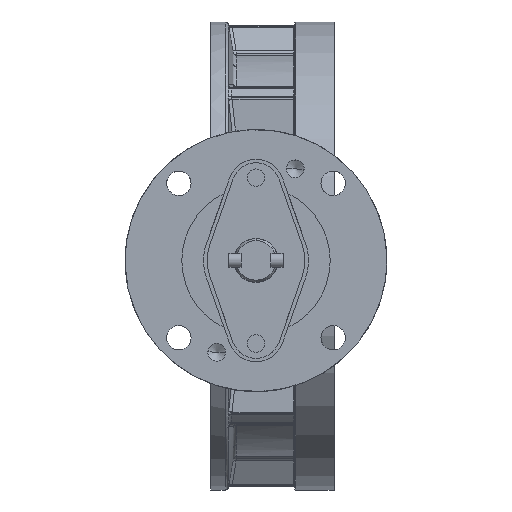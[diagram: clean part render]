
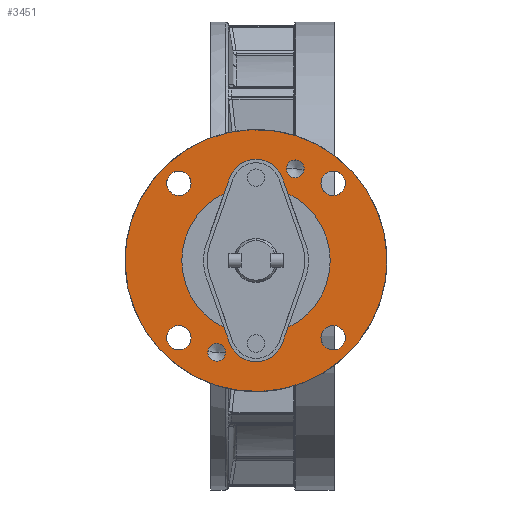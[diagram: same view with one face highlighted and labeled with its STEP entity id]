
A CAD part, top view. The second image highlights one B-rep face of the part: STEP entity #3451.
In plain terms, the highlighted planar face has unit normal (0, 0, 1).
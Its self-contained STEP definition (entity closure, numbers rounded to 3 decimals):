
#1519=EDGE_CURVE('',#4447,#4448,#4449,.T.);
#1631=EDGE_CURVE('',#4640,#4641,#4642,.T.);
#1861=EDGE_CURVE('',#5021,#5022,#5023,.T.);
#1889=EDGE_CURVE('',#5022,#5021,#5069,.T.);
#2215=EDGE_CURVE('',#4448,#5584,#5585,.T.);
#2237=EDGE_CURVE('',#5618,#5619,#5620,.T.);
#2373=EDGE_CURVE('',#5619,#5618,#5828,.T.);
#2433=EDGE_CURVE('',#5922,#5923,#5924,.T.);
#2509=EDGE_CURVE('',#6039,#6040,#6041,.T.);
#2751=EDGE_CURVE('',#5584,#6407,#6408,.T.);
#3239=EDGE_CURVE('',#7116,#7117,#7118,.T.);
#3333=EDGE_CURVE('',#5923,#5922,#7249,.T.);
#3451=ADVANCED_FACE('',(#7412,#7413,#7414,#7415,#7416,#7417,#7418,#7419),#7420,.F.);
#3615=EDGE_CURVE('',#7641,#7642,#7643,.T.);
#3641=EDGE_CURVE('',#7678,#7679,#7680,.T.);
#3783=EDGE_CURVE('',#7117,#4640,#7881,.T.);
#3931=EDGE_CURVE('',#7642,#7641,#8093,.T.);
#3967=EDGE_CURVE('',#7679,#7678,#8141,.T.);
#3997=EDGE_CURVE('',#6040,#6039,#8180,.T.);
#4447=VERTEX_POINT('',#9124);
#4448=VERTEX_POINT('',#9125);
#4449=LINE('',#9126,#9127);
#4640=VERTEX_POINT('',#9835);
#4641=VERTEX_POINT('',#9836);
#4642=LINE('',#9837,#9838);
#5021=VERTEX_POINT('',#11521);
#5022=VERTEX_POINT('',#11522);
#5023=CIRCLE('',#11523,5.1);
#5069=CIRCLE('',#11576,5.1);
#5584=VERTEX_POINT('',#13738);
#5585=CIRCLE('',#13739,16.0);
#5618=VERTEX_POINT('',#13894);
#5619=VERTEX_POINT('',#13895);
#5620=CIRCLE('',#13896,7.0);
#5828=CIRCLE('',#15365,7.0);
#5922=VERTEX_POINT('',#15916);
#5923=VERTEX_POINT('',#15917);
#5924=CIRCLE('',#15918,7.0);
#6039=VERTEX_POINT('',#16183);
#6040=VERTEX_POINT('',#16184);
#6041=CIRCLE('',#16185,7.);
#6407=VERTEX_POINT('',#17559);
#6408=LINE('',#17560,#17561);
#7116=VERTEX_POINT('',#21124);
#7117=VERTEX_POINT('',#21125);
#7118=LINE('',#21126,#21127);
#7249=CIRCLE('',#21618,7.0);
#7412=FACE_BOUND('',#22954,.T.);
#7413=FACE_BOUND('',#22955,.T.);
#7414=FACE_OUTER_BOUND('',#22956,.T.);
#7415=FACE_BOUND('',#22957,.T.);
#7416=FACE_BOUND('',#22958,.T.);
#7417=FACE_BOUND('',#22959,.T.);
#7418=FACE_BOUND('',#22960,.T.);
#7419=FACE_BOUND('',#22961,.T.);
#7420=PLANE('',#22962);
#7641=VERTEX_POINT('',#24459);
#7642=VERTEX_POINT('',#24460);
#7643=CIRCLE('',#24461,5.1);
#7678=VERTEX_POINT('',#24656);
#7679=VERTEX_POINT('',#24657);
#7680=CIRCLE('',#24658,7.);
#7881=CIRCLE('',#26039,16.0);
#8093=CIRCLE('',#26673,5.1);
#8141=CIRCLE('',#27054,7.);
#8180=CIRCLE('',#27105,7.);
#9124=CARTESIAN_POINT('',(18.25,-41.382,224.0));
#9125=CARTESIAN_POINT('',(15.085,-50.333,224.0));
#9126=CARTESIAN_POINT('',(21.582,-31.958,224.0));
#9127=VECTOR('',#29786,1.0);
#9835=CARTESIAN_POINT('',(15.085,44.333,224.0));
#9836=CARTESIAN_POINT('',(18.25,35.382,224.0));
#9837=CARTESIAN_POINT('',(21.582,25.958,224.0));
#9838=VECTOR('',#30066,1.0);
#11521=CARTESIAN_POINT('',(-17.407,-55.767,224.));
#11522=CARTESIAN_POINT('',(-27.593,-55.233,224.0));
#11523=AXIS2_PLACEMENT_3D('',#30731,#30732,#30733);
#11576=AXIS2_PLACEMENT_3D('',#30833,#30834,#30835);
#13738=CARTESIAN_POINT('',(-15.085,-50.333,224.0));
#13739=AXIS2_PLACEMENT_3D('',#31843,#31844,#31845);
#13894=CARTESIAN_POINT('',(39.807,-52.649,224.0));
#13895=CARTESIAN_POINT('',(48.581,-41.739,224.0));
#13896=AXIS2_PLACEMENT_3D('',#31914,#31915,#31916);
#15365=AXIS2_PLACEMENT_3D('',#32308,#32309,#32310);
#15916=CARTESIAN_POINT('',(-39.807,-52.649,224.0));
#15917=CARTESIAN_POINT('',(-48.581,-41.739,224.0));
#15918=AXIS2_PLACEMENT_3D('',#32470,#32471,#32472);
#16183=CARTESIAN_POINT('',(39.807,46.649,224.0));
#16184=CARTESIAN_POINT('',(48.581,35.739,224.0));
#16185=AXIS2_PLACEMENT_3D('',#32695,#32696,#32697);
#17559=CARTESIAN_POINT('',(-18.25,-41.382,224.0));
#17560=CARTESIAN_POINT('',(-28.387,-12.709,224.0));
#17561=VECTOR('',#33461,1.0);
#21124=CARTESIAN_POINT('',(-18.25,35.382,224.0));
#21125=CARTESIAN_POINT('',(-15.085,44.333,224.0));
#21126=CARTESIAN_POINT('',(-28.387,6.709,224.0));
#21127=VECTOR('',#34824,1.0);
#21618=AXIS2_PLACEMENT_3D('',#35076,#35077,#35078);
#22954=EDGE_LOOP('',(#35386,#35387));
#22955=EDGE_LOOP('',(#35388,#35389));
#22956=EDGE_LOOP('',(#35390,#35391));
#22957=EDGE_LOOP('',(#35392,#35393,#35394,#35395,#35396,#35397,#35398,#35399,#35400,#35401));
#22958=EDGE_LOOP('',(#35402,#35403));
#22959=EDGE_LOOP('',(#35404,#35405));
#22960=EDGE_LOOP('',(#35406,#35407));
#22961=EDGE_LOOP('',(#35408,#35409));
#22962=AXIS2_PLACEMENT_3D('',#35410,#35411,#35412);
#24459=CARTESIAN_POINT('',(17.407,49.767,224.0));
#24460=CARTESIAN_POINT('',(27.593,49.233,224.0));
#24461=AXIS2_PLACEMENT_3D('',#35856,#35857,#35858);
#24656=CARTESIAN_POINT('',(-48.581,35.739,224.0));
#24657=CARTESIAN_POINT('',(-39.807,46.649,224.0));
#24658=AXIS2_PLACEMENT_3D('',#35924,#35925,#35926);
#26039=AXIS2_PLACEMENT_3D('',#36360,#36361,#36362);
#26673=AXIS2_PLACEMENT_3D('',#36847,#36848,#36849);
#27054=AXIS2_PLACEMENT_3D('',#36938,#36939,#36940);
#27105=AXIS2_PLACEMENT_3D('',#37015,#37016,#37017);
#29786=DIRECTION('',(-0.333,-0.943,0.0));
#30066=DIRECTION('',(0.333,-0.943,-0.0));
#30731=CARTESIAN_POINT('',(-22.5,-55.5,224.0));
#30732=DIRECTION('',(0.0,-0.0,-1.0));
#30733=DIRECTION('',(0.999,-0.052,0.0));
#30833=CARTESIAN_POINT('',(-22.5,-55.5,224.0));
#30834=DIRECTION('',(0.0,-0.0,-1.0));
#30835=DIRECTION('',(0.999,-0.052,0.0));
#31843=CARTESIAN_POINT('',(0.,-45.0,224.0));
#31844=DIRECTION('',(0.0,0.0,-1.0));
#31845=DIRECTION('',(-1.,0.007,0.0));
#31914=CARTESIAN_POINT('',(44.194,-47.194,224.0));
#31915=DIRECTION('',(-0.0,0.0,-1.0));
#31916=DIRECTION('',(-0.627,-0.779,0.0));
#32308=CARTESIAN_POINT('',(44.194,-47.194,224.0));
#32309=DIRECTION('',(-0.0,0.0,-1.0));
#32310=DIRECTION('',(-0.627,-0.779,0.0));
#32470=CARTESIAN_POINT('',(-44.194,-47.194,224.0));
#32471=DIRECTION('',(0.0,-0.0,-1.0));
#32472=DIRECTION('',(0.627,-0.779,0.0));
#32695=CARTESIAN_POINT('',(44.194,41.194,224.0));
#32696=DIRECTION('',(0.0,0.0,-1.0));
#32697=DIRECTION('',(-0.627,0.779,0.0));
#33461=DIRECTION('',(-0.333,0.943,0.0));
#34824=DIRECTION('',(0.333,0.943,0.0));
#35076=CARTESIAN_POINT('',(-44.194,-47.194,224.0));
#35077=DIRECTION('',(0.0,-0.0,-1.0));
#35078=DIRECTION('',(0.627,-0.779,0.0));
#35386=ORIENTED_EDGE('',*,*,#1861,.T.);
#35387=ORIENTED_EDGE('',*,*,#1889,.T.);
#35388=ORIENTED_EDGE('',*,*,#3931,.T.);
#35389=ORIENTED_EDGE('',*,*,#3615,.T.);
#35390=ORIENTED_EDGE('',*,*,#40029,.F.);
#35391=ORIENTED_EDGE('',*,*,#38520,.F.);
#35392=ORIENTED_EDGE('',*,*,#1631,.T.);
#35393=ORIENTED_EDGE('',*,*,#39852,.T.);
#35394=ORIENTED_EDGE('',*,*,#39058,.T.);
#35395=ORIENTED_EDGE('',*,*,#1519,.T.);
#35396=ORIENTED_EDGE('',*,*,#2215,.T.);
#35397=ORIENTED_EDGE('',*,*,#2751,.T.);
#35398=ORIENTED_EDGE('',*,*,#39550,.T.);
#35399=ORIENTED_EDGE('',*,*,#39188,.T.);
#35400=ORIENTED_EDGE('',*,*,#3239,.T.);
#35401=ORIENTED_EDGE('',*,*,#3783,.T.);
#35402=ORIENTED_EDGE('',*,*,#2433,.T.);
#35403=ORIENTED_EDGE('',*,*,#3333,.T.);
#35404=ORIENTED_EDGE('',*,*,#2509,.T.);
#35405=ORIENTED_EDGE('',*,*,#3997,.T.);
#35406=ORIENTED_EDGE('',*,*,#3967,.T.);
#35407=ORIENTED_EDGE('',*,*,#3641,.T.);
#35408=ORIENTED_EDGE('',*,*,#2237,.T.);
#35409=ORIENTED_EDGE('',*,*,#2373,.T.);
#35410=CARTESIAN_POINT('',(-61.25,-3.0,224.0));
#35411=DIRECTION('',(0.0,0.0,-1.0));
#35412=DIRECTION('',(-1.0,0.0,0.0));
#35856=CARTESIAN_POINT('',(22.5,49.5,224.0));
#35857=DIRECTION('',(0.0,-0.0,-1.0));
#35858=DIRECTION('',(0.999,-0.052,0.0));
#35924=CARTESIAN_POINT('',(-44.194,41.194,224.0));
#35925=DIRECTION('',(0.0,0.0,-1.0));
#35926=DIRECTION('',(0.627,0.779,0.0));
#36360=CARTESIAN_POINT('',(0.,39.0,224.0));
#36361=DIRECTION('',(0.0,0.0,-1.0));
#36362=DIRECTION('',(-1.0,0.0,0.0));
#36847=CARTESIAN_POINT('',(22.5,49.5,224.0));
#36848=DIRECTION('',(0.0,-0.0,-1.0));
#36849=DIRECTION('',(0.999,-0.052,0.0));
#36938=CARTESIAN_POINT('',(-44.194,41.194,224.0));
#36939=DIRECTION('',(0.0,0.0,-1.0));
#36940=DIRECTION('',(0.627,0.779,0.0));
#37015=CARTESIAN_POINT('',(44.194,41.194,224.0));
#37016=DIRECTION('',(0.0,0.0,-1.0));
#37017=DIRECTION('',(-0.627,0.779,0.0));
#38520=EDGE_CURVE('',#41228,#41231,#41232,.T.);
#39058=EDGE_CURVE('',#42042,#4447,#42048,.T.);
#39188=EDGE_CURVE('',#42227,#7116,#42232,.T.);
#39550=EDGE_CURVE('',#6407,#42227,#42718,.T.);
#39852=EDGE_CURVE('',#4641,#42042,#43075,.T.);
#40029=EDGE_CURVE('',#41231,#41228,#43275,.T.);
#41228=VERTEX_POINT('',#45752);
#41231=VERTEX_POINT('',#45756);
#41232=CIRCLE('',#45757,75.0);
#42042=VERTEX_POINT('',#48397);
#42048=CIRCLE('',#48405,42.5);
#42227=VERTEX_POINT('',#48993);
#42232=CIRCLE('',#49000,42.5);
#42718=CIRCLE('',#50291,42.5);
#43075=CIRCLE('',#51405,42.5);
#43275=CIRCLE('',#52019,75.0);
#45752=CARTESIAN_POINT('',(73.326,12.757,224.0));
#45756=CARTESIAN_POINT('',(-73.326,-18.757,224.0));
#45757=AXIS2_PLACEMENT_3D('',#53564,#53565,#53566);
#48397=CARTESIAN_POINT('',(42.5,-3.,224.0));
#48405=AXIS2_PLACEMENT_3D('',#54168,#54169,#54170);
#48993=CARTESIAN_POINT('',(-42.5,-3.,224.0));
#49000=AXIS2_PLACEMENT_3D('',#54295,#54296,#54297);
#50291=AXIS2_PLACEMENT_3D('',#54759,#54760,#54761);
#51405=AXIS2_PLACEMENT_3D('',#55025,#55026,#55027);
#52019=AXIS2_PLACEMENT_3D('',#55180,#55181,#55182);
#53564=CARTESIAN_POINT('',(0.,-3.,224.0));
#53565=DIRECTION('',(0.0,0.0,-1.0));
#53566=DIRECTION('',(0.978,0.21,0.0));
#54168=CARTESIAN_POINT('',(0.,-3.0,224.0));
#54169=DIRECTION('',(-0.0,0.0,-1.0));
#54170=DIRECTION('',(-1.0,0.0,0.0));
#54295=CARTESIAN_POINT('',(0.,-3.0,224.0));
#54296=DIRECTION('',(-0.0,0.0,-1.0));
#54297=DIRECTION('',(-1.0,0.0,0.0));
#54759=CARTESIAN_POINT('',(0.,-3.0,224.0));
#54760=DIRECTION('',(-0.0,0.0,-1.0));
#54761=DIRECTION('',(-1.0,0.0,0.0));
#55025=CARTESIAN_POINT('',(0.,-3.0,224.0));
#55026=DIRECTION('',(-0.0,0.0,-1.0));
#55027=DIRECTION('',(-1.0,0.0,0.0));
#55180=CARTESIAN_POINT('',(0.,-3.,224.0));
#55181=DIRECTION('',(0.0,0.0,-1.0));
#55182=DIRECTION('',(0.978,0.21,0.0));
